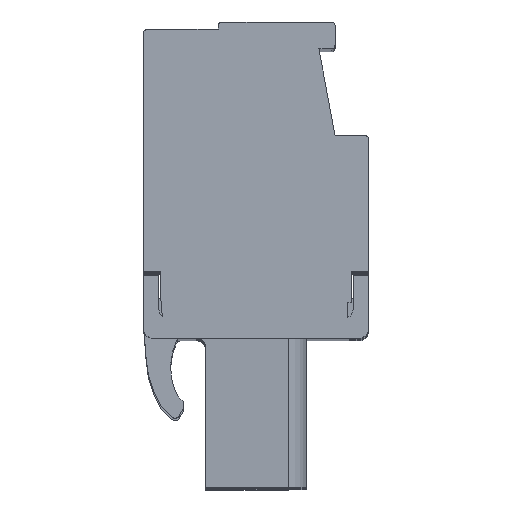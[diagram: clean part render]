
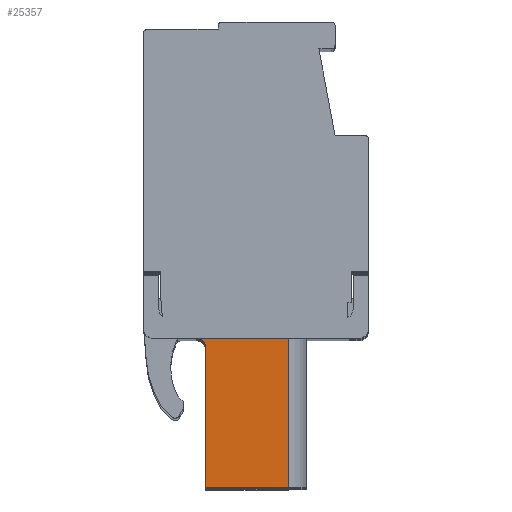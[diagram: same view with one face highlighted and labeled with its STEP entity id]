
A CAD part, top view. The second image highlights one B-rep face of the part: STEP entity #25357.
In plain terms, the highlighted planar face has unit normal (0, -0.035, 0.999).
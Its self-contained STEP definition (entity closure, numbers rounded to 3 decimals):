
#3362 = CARTESIAN_POINT ( 'NONE',  ( 2.95, -1.1, -0.25 ) ) ;
#3363 = CARTESIAN_POINT ( 'NONE',  ( 3.243, -1.1, -0.25 ) ) ;
#3364 = CARTESIAN_POINT ( 'NONE',  ( 3.45, -1.307, -0.257 ) ) ;
#3365 = CARTESIAN_POINT ( 'NONE',  ( 3.45, -1.6, -0.267 ) ) ;
#3366 =( BOUNDED_CURVE ( )  B_SPLINE_CURVE ( 3, ( #3365, #3364, #3363, #3362 ),
 .UNSPECIFIED., .F., .T. ) 
 B_SPLINE_CURVE_WITH_KNOTS ( ( 4, 4 ),
 ( 1.571, 3.142 ),
 .UNSPECIFIED. ) 
 CURVE ( )  GEOMETRIC_REPRESENTATION_ITEM ( )  RATIONAL_B_SPLINE_CURVE ( ( 1., 0.805, 0.805, 1. ) ) 
 REPRESENTATION_ITEM ( '' )  );
#3369 = DIRECTION ( 'NONE',  ( -1., 0., 0. ) ) ;
#3370 = VECTOR ( 'NONE', #3369, 1000. ) ;
#3371 = CARTESIAN_POINT ( 'NONE',  ( 8.05, -1.1, -0.25 ) ) ;
#3372 = LINE ( 'NONE', #3371, #3370 ) ;
#3390 = DIRECTION ( 'NONE',  ( 0., 0.999, 0.035 ) ) ;
#3391 = DIRECTION ( 'NONE',  ( 0., -0.035, 0.999 ) ) ;
#3392 = CARTESIAN_POINT ( 'NONE',  ( 8.05, -9.4, -0.54 ) ) ;
#3393 = AXIS2_PLACEMENT_3D ( 'NONE', #3392, #3391, #3390 ) ;
#3394 = PLANE ( 'NONE',  #3393 ) ;
#3395 = CARTESIAN_POINT ( 'NONE',  ( 2.95, -1.1, -0.25 ) ) ;
#3396 = FACE_OUTER_BOUND ( 'NONE', #25358, .T. ) ;
#18696 = VERTEX_POINT ( 'NONE', #39468 ) ;
#18698 = EDGE_CURVE ( 'NONE', #18699, #18696, #39467, .T. ) ;
#18699 = VERTEX_POINT ( 'NONE', #39463 ) ;
#18705 = EDGE_CURVE ( 'NONE', #18759, #18760, #39520, .T. ) ;
#18759 = VERTEX_POINT ( 'NONE', #39553 ) ;
#18760 = VERTEX_POINT ( 'NONE', #39552 ) ;
#21122 = EDGE_CURVE ( 'NONE', #18696, #18759, #42770, .T. ) ;
#25335 = ORIENTED_EDGE ( 'NONE', *, *, #25336, .T. ) ;
#25336 = EDGE_CURVE ( 'NONE', #18760, #25359, #3372, .T. ) ;
#25337 = ORIENTED_EDGE ( 'NONE', *, *, #25338, .F. ) ;
#25338 = EDGE_CURVE ( 'NONE', #18699, #25359, #3366, .T. ) ;
#25339 = ORIENTED_EDGE ( 'NONE', *, *, #18698, .T. ) ;
#25340 = ORIENTED_EDGE ( 'NONE', *, *, #21122, .T. ) ;
#25341 = ORIENTED_EDGE ( 'NONE', *, *, #18705, .T. ) ;
#25357 = ADVANCED_FACE ( 'NONE', ( #3396 ), #3394, .T. ) ;
#25358 = EDGE_LOOP ( 'NONE', ( #25335, #25337, #25339, #25340, #25341 ) ) ;
#25359 = VERTEX_POINT ( 'NONE', #3395 ) ;
#39463 = CARTESIAN_POINT ( 'NONE',  ( 3.45, -1.6, -0.267 ) ) ;
#39464 = DIRECTION ( 'NONE',  ( 0., -0.999, -0.035 ) ) ;
#39465 = VECTOR ( 'NONE', #39464, 1000. ) ;
#39466 = CARTESIAN_POINT ( 'NONE',  ( 3.45, -5.25, -0.395 ) ) ;
#39467 = LINE ( 'NONE', #39466, #39465 ) ;
#39468 = CARTESIAN_POINT ( 'NONE',  ( 3.45, -9.4, -0.54 ) ) ;
#39517 = DIRECTION ( 'NONE',  ( 0., 0.999, 0.035 ) ) ;
#39518 = VECTOR ( 'NONE', #39517, 1000. ) ;
#39519 = CARTESIAN_POINT ( 'NONE',  ( 8.05, -5.25, -0.395 ) ) ;
#39520 = LINE ( 'NONE', #39519, #39518 ) ;
#39552 = CARTESIAN_POINT ( 'NONE',  ( 8.05, -1.1, -0.25 ) ) ;
#39553 = CARTESIAN_POINT ( 'NONE',  ( 8.05, -9.4, -0.54 ) ) ;
#42767 = DIRECTION ( 'NONE',  ( 1., 0., 0. ) ) ;
#42768 = VECTOR ( 'NONE', #42767, 1000. ) ;
#42769 = CARTESIAN_POINT ( 'NONE',  ( 8.05, -9.4, -0.54 ) ) ;
#42770 = LINE ( 'NONE', #42769, #42768 ) ;
